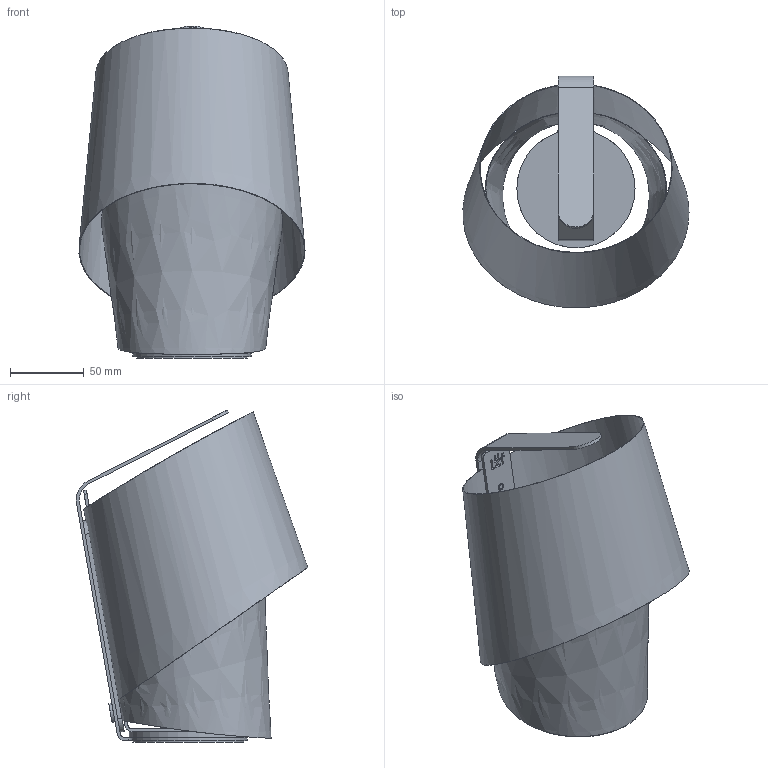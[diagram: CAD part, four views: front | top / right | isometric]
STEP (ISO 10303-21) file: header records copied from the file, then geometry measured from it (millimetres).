
FILE_DESCRIPTION(/* description */ (''),/* implementation_level */ '2;1');
FILE_NAME(/* name */ '2021_29_00_Ensamble_TINY.stp',/* time_stamp */ '2023-02-20T15:47:00+01:00',/* author */ (''),/* organization */ (''),/* preprocessor_version */ 'ST-DEVELOPER v16.7',/* originating_system */ 'SIEMENS PLM Software NX 1892',/* authorisation */ '');
FILE_SCHEMA (('AUTOMOTIVE_DESIGN { 1 0 10303 214 3 1 1 1 }'));
Length unit declared in the file: millimetre
Products named in the file (12): Perno insertable M3x6; Croquis_logo_LZF; D12_025_Pasacables; 2021_29_17_Espuma_embellecedor_TINY; 2021_29_16_Disco_Tiny_v02; 2021_29_14_Pletina_pantalla_TINY_v02_FLAT-PATTERN-OBJECTS; 2021_29_15_Antideslizante_Tiny_v01; 2021_29_13_Embellecedor_TINY_v02; 2021_29_xx_Timberlite_3D_tiny; 2021_29_14_Pletina_pantalla_TINY_v02; 2021_29_Ensamble_TINY_v02; 2021_29_00_Ensamble_TINY
Assembly tree (14 placements, depth 4):
  2021_29_00_Ensamble_TINY
    2021_29_Ensamble_TINY_v02
      2021_29_13_Embellecedor_TINY_v02  x2
      2021_29_14_Pletina_pantalla_TINY_v02
        Croquis_logo_LZF
        Perno insertable M3x6  x3
      2021_29_15_Antideslizante_Tiny_v01
      2021_29_14_Pletina_pantalla_TINY_v02_FLAT-PATTERN-OBJECTS
      2021_29_16_Disco_Tiny_v02
      2021_29_17_Espuma_embellecedor_TINY
      D12_025_Pasacables
    2021_29_xx_Timberlite_3D_tiny
Bounding box: 153 x 156.69 x 224.73 mm (x, y, z)
Volume: 126197.3 mm3; surface area: 258454.9 mm2
Topology: 12 solids, 12 shells, 278 faces, 708 edges, 457 vertices
Faces by surface type: cylinder 111, plane 96, cone 41, torus 26, bspline 4
Full cylindrical faces by diameter (mm): 2.5 x2, 3 x3, 3.4 x2, 5 x1, 10 x3, 12 x2, 13 x1, 75 x1, 80 x1
Entity records: 9510 total; most frequent: CARTESIAN_POINT 4095, DIRECTION 1130, ORIENTED_EDGE 984, EDGE_CURVE 492, AXIS2_PLACEMENT_3D 433, VERTEX_POINT 343, EDGE_LOOP 289, LINE 264
